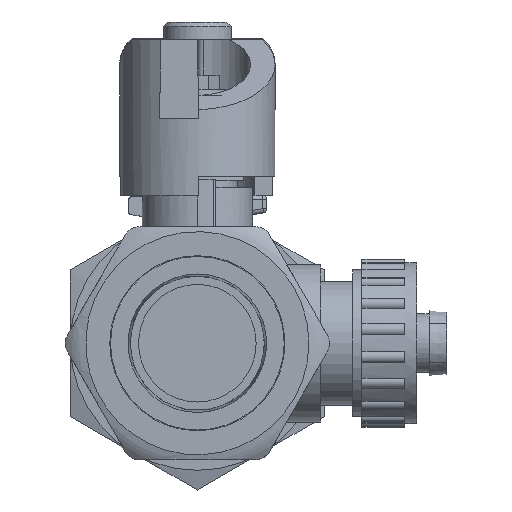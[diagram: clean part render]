
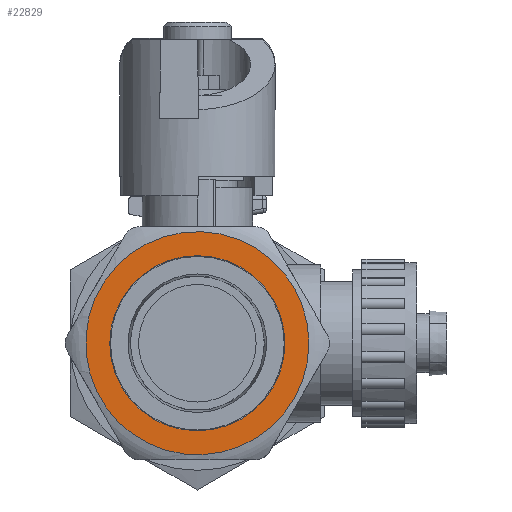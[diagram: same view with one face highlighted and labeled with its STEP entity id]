
A CAD part, left-side view. The second image highlights one B-rep face of the part: STEP entity #22829.
In plain terms, the highlighted planar face has unit normal (-1, 0, 0).
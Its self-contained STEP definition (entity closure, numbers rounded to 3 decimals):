
#21164 = TOROIDAL_SURFACE('',#21165,0.744,0.292);
#21165 = AXIS2_PLACEMENT_3D('',#21166,#21167,#21168);
#21166 = CARTESIAN_POINT('',(17.028,-0.486,
    15.633));
#21167 = DIRECTION('',(-1.,0.,0.));
#21168 = DIRECTION('',(0.,1.,0.));
#21898 = EDGE_CURVE('',#21899,#21901,#21903,.T.);
#21899 = VERTEX_POINT('',#21900);
#21900 = CARTESIAN_POINT('',(16.741,-1.283,
    15.633));
#21901 = VERTEX_POINT('',#21902);
#21902 = CARTESIAN_POINT('',(16.741,0.308,
    15.687));
#21903 = SURFACE_CURVE('',#21904,(#21909,#21916),.PCURVE_S1.);
#21904 = CIRCLE('',#21905,0.796);
#21905 = AXIS2_PLACEMENT_3D('',#21906,#21907,#21908);
#21906 = CARTESIAN_POINT('',(16.741,-0.486,
    15.633));
#21907 = DIRECTION('',(-1.,0.,0.));
#21908 = DIRECTION('',(0.,1.,0.));
#21909 = PCURVE('',#21164,#21910);
#21910 = DEFINITIONAL_REPRESENTATION('',(#21911),#21915);
#21911 = LINE('',#21912,#21913);
#21912 = CARTESIAN_POINT('',(-6.283,7.674));
#21913 = VECTOR('',#21914,1.);
#21914 = DIRECTION('',(1.,-0.));
#21915 = ( GEOMETRIC_REPRESENTATION_CONTEXT(2) 
PARAMETRIC_REPRESENTATION_CONTEXT() REPRESENTATION_CONTEXT('2D SPACE',''
  ) );
#21916 = PCURVE('',#21917,#21922);
#21917 = PLANE('',#21918);
#21918 = AXIS2_PLACEMENT_3D('',#21919,#21920,#21921);
#21919 = CARTESIAN_POINT('',(16.741,-0.486,
    15.633));
#21920 = DIRECTION('',(1.,0.,0.));
#21921 = DIRECTION('',(0.,1.,0.));
#21922 = DEFINITIONAL_REPRESENTATION('',(#21923),#21931);
#21923 = ( BOUNDED_CURVE() B_SPLINE_CURVE(2,(#21924,#21925,#21926,#21927
    ,#21928,#21929,#21930),.UNSPECIFIED.,.T.,.F.) 
B_SPLINE_CURVE_WITH_KNOTS((1,2,2,2,2,1),(-2.094,0.,
    2.094,4.189,6.283,8.378),
.UNSPECIFIED.) CURVE() GEOMETRIC_REPRESENTATION_ITEM() 
RATIONAL_B_SPLINE_CURVE((1.,0.5,1.,0.5,1.,0.5,1.)) REPRESENTATION_ITEM(
  '') );
#21924 = CARTESIAN_POINT('',(0.796,0.));
#21925 = CARTESIAN_POINT('',(0.796,-1.38));
#21926 = CARTESIAN_POINT('',(-0.398,-0.69));
#21927 = CARTESIAN_POINT('',(-1.593,0.));
#21928 = CARTESIAN_POINT('',(-0.398,0.69));
#21929 = CARTESIAN_POINT('',(0.796,1.38));
#21930 = CARTESIAN_POINT('',(0.796,0.));
#21931 = ( GEOMETRIC_REPRESENTATION_CONTEXT(2) 
PARAMETRIC_REPRESENTATION_CONTEXT() REPRESENTATION_CONTEXT('2D SPACE',''
  ) );
#22576 = EDGE_CURVE('',#21901,#21899,#22577,.T.);
#22577 = SURFACE_CURVE('',#22578,(#22583,#22590),.PCURVE_S1.);
#22578 = CIRCLE('',#22579,0.796);
#22579 = AXIS2_PLACEMENT_3D('',#22580,#22581,#22582);
#22580 = CARTESIAN_POINT('',(16.741,-0.486,
    15.633));
#22581 = DIRECTION('',(-1.,0.,0.));
#22582 = DIRECTION('',(0.,1.,0.));
#22583 = PCURVE('',#21164,#22584);
#22584 = DEFINITIONAL_REPRESENTATION('',(#22585),#22589);
#22585 = LINE('',#22586,#22587);
#22586 = CARTESIAN_POINT('',(-12.566,7.674));
#22587 = VECTOR('',#22588,1.);
#22588 = DIRECTION('',(1.,-0.));
#22589 = ( GEOMETRIC_REPRESENTATION_CONTEXT(2) 
PARAMETRIC_REPRESENTATION_CONTEXT() REPRESENTATION_CONTEXT('2D SPACE',''
  ) );
#22590 = PCURVE('',#21917,#22591);
#22591 = DEFINITIONAL_REPRESENTATION('',(#22592),#22600);
#22592 = ( BOUNDED_CURVE() B_SPLINE_CURVE(2,(#22593,#22594,#22595,#22596
    ,#22597,#22598,#22599),.UNSPECIFIED.,.T.,.F.) 
B_SPLINE_CURVE_WITH_KNOTS((1,2,2,2,2,1),(-2.094,0.,
    2.094,4.189,6.283,8.378),
.UNSPECIFIED.) CURVE() GEOMETRIC_REPRESENTATION_ITEM() 
RATIONAL_B_SPLINE_CURVE((1.,0.5,1.,0.5,1.,0.5,1.)) REPRESENTATION_ITEM(
  '') );
#22593 = CARTESIAN_POINT('',(0.796,0.));
#22594 = CARTESIAN_POINT('',(0.796,-1.38));
#22595 = CARTESIAN_POINT('',(-0.398,-0.69));
#22596 = CARTESIAN_POINT('',(-1.593,0.));
#22597 = CARTESIAN_POINT('',(-0.398,0.69));
#22598 = CARTESIAN_POINT('',(0.796,1.38));
#22599 = CARTESIAN_POINT('',(0.796,0.));
#22600 = ( GEOMETRIC_REPRESENTATION_CONTEXT(2) 
PARAMETRIC_REPRESENTATION_CONTEXT() REPRESENTATION_CONTEXT('2D SPACE',''
  ) );
#22757 = CYLINDRICAL_SURFACE('',#22758,0.625);
#22758 = AXIS2_PLACEMENT_3D('',#22759,#22760,#22761);
#22759 = CARTESIAN_POINT('',(17.337,-0.486,
    15.633));
#22760 = DIRECTION('',(-1.,0.,0.));
#22761 = DIRECTION('',(0.,0.,-1.));
#22786 = VERTEX_POINT('',#22787);
#22787 = CARTESIAN_POINT('',(16.741,-0.486,
    16.258));
#22807 = EDGE_CURVE('',#22786,#22786,#22808,.T.);
#22808 = SURFACE_CURVE('',#22809,(#22814,#22821),.PCURVE_S1.);
#22809 = CIRCLE('',#22810,0.625);
#22810 = AXIS2_PLACEMENT_3D('',#22811,#22812,#22813);
#22811 = CARTESIAN_POINT('',(16.741,-0.486,
    15.633));
#22812 = DIRECTION('',(1.,0.,0.));
#22813 = DIRECTION('',(0.,0.,-1.));
#22814 = PCURVE('',#22757,#22815);
#22815 = DEFINITIONAL_REPRESENTATION('',(#22816),#22820);
#22816 = LINE('',#22817,#22818);
#22817 = CARTESIAN_POINT('',(12.566,0.596));
#22818 = VECTOR('',#22819,1.);
#22819 = DIRECTION('',(-1.,0.));
#22820 = ( GEOMETRIC_REPRESENTATION_CONTEXT(2) 
PARAMETRIC_REPRESENTATION_CONTEXT() REPRESENTATION_CONTEXT('2D SPACE',''
  ) );
#22821 = PCURVE('',#21917,#22822);
#22822 = DEFINITIONAL_REPRESENTATION('',(#22823),#22827);
#22823 = CIRCLE('',#22824,0.625);
#22824 = AXIS2_PLACEMENT_2D('',#22825,#22826);
#22825 = CARTESIAN_POINT('',(0.,0.));
#22826 = DIRECTION('',(0.,-1.));
#22827 = ( GEOMETRIC_REPRESENTATION_CONTEXT(2) 
PARAMETRIC_REPRESENTATION_CONTEXT() REPRESENTATION_CONTEXT('2D SPACE',''
  ) );
#22829 = ADVANCED_FACE('',(#22830,#22834),#21917,.F.);
#22830 = FACE_BOUND('',#22831,.T.);
#22831 = EDGE_LOOP('',(#22832,#22833));
#22832 = ORIENTED_EDGE('',*,*,#21898,.T.);
#22833 = ORIENTED_EDGE('',*,*,#22576,.T.);
#22834 = FACE_BOUND('',#22835,.T.);
#22835 = EDGE_LOOP('',(#22836));
#22836 = ORIENTED_EDGE('',*,*,#22807,.T.);
